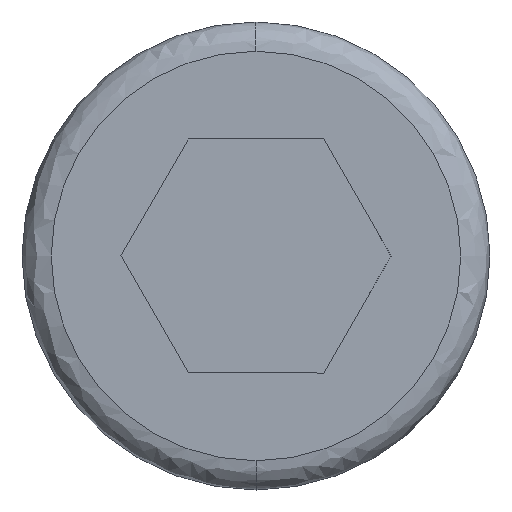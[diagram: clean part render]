
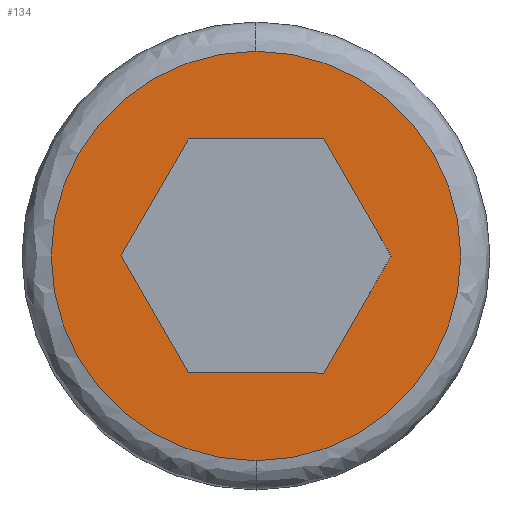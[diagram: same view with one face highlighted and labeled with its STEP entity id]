
A CAD part, left-side view. The second image highlights one B-rep face of the part: STEP entity #134.
In plain terms, the highlighted planar face has unit normal (-1, 0, 0).
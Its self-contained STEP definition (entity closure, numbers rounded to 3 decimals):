
#4 = EDGE_CURVE ( 'NONE', #282, #408, #266, .T. ) ;
#16 = FACE_OUTER_BOUND ( 'NONE', #797, .T. ) ;
#21 = VECTOR ( 'NONE', #187, 1000. ) ;
#25 = VECTOR ( 'NONE', #110, 1000. ) ;
#44 = LINE ( 'NONE', #144, #21 ) ;
#58 = ORIENTED_EDGE ( 'NONE', *, *, #672, .F. ) ;
#64 = ORIENTED_EDGE ( 'NONE', *, *, #248, .T. ) ;
#86 = CARTESIAN_POINT ( 'NONE',  ( -10., 0., 0. ) ) ;
#92 = EDGE_CURVE ( 'NONE', #408, #253, #609, .T. ) ;
#105 = DIRECTION ( 'NONE',  ( 0., -0.5, -0.866 ) ) ;
#110 = DIRECTION ( 'NONE',  ( 0., -0.5, 0.866 ) ) ;
#134 = ADVANCED_FACE ( 'NONE', ( #16, #419 ), #684, .T. ) ;
#144 = CARTESIAN_POINT ( 'NONE',  ( -10., 2.905, 4. ) ) ;
#147 = VECTOR ( 'NONE', #105, 1000. ) ;
#186 = VERTEX_POINT ( 'NONE', #256 ) ;
#187 = DIRECTION ( 'NONE',  ( 0., -1., 0. ) ) ;
#192 = ORIENTED_EDGE ( 'NONE', *, *, #420, .F. ) ;
#210 = ORIENTED_EDGE ( 'NONE', *, *, #92, .T. ) ;
#214 = ORIENTED_EDGE ( 'NONE', *, *, #634, .T. ) ;
#218 = CARTESIAN_POINT ( 'NONE',  ( -10., 0.595, -4. ) ) ;
#234 = EDGE_LOOP ( 'NONE', ( #214, #805, #210, #64, #533, #450 ) ) ;
#245 = VERTEX_POINT ( 'NONE', #339 ) ;
#248 = EDGE_CURVE ( 'NONE', #253, #683, #863, .T. ) ;
#253 = VERTEX_POINT ( 'NONE', #484 ) ;
#256 = CARTESIAN_POINT ( 'NONE',  ( -10., -2.309, 4. ) ) ;
#266 = LINE ( 'NONE', #473, #618 ) ;
#282 = VERTEX_POINT ( 'NONE', #529 ) ;
#339 = CARTESIAN_POINT ( 'NONE',  ( -10., 2.309, 4. ) ) ;
#367 = DIRECTION ( 'NONE',  ( 1., 0., 0. ) ) ;
#399 = LINE ( 'NONE', #780, #25 ) ;
#408 = VERTEX_POINT ( 'NONE', #433 ) ;
#419 = FACE_BOUND ( 'NONE', #234, .T. ) ;
#420 = EDGE_CURVE ( 'NONE', #518, #489, #679, .T. ) ;
#426 = DIRECTION ( 'NONE',  ( -1., 0., 0. ) ) ;
#427 = CIRCLE ( 'NONE', #525, 7. ) ;
#433 = CARTESIAN_POINT ( 'NONE',  ( -10., -2.309, -4. ) ) ;
#450 = ORIENTED_EDGE ( 'NONE', *, *, #657, .T. ) ;
#463 = DIRECTION ( 'NONE',  ( 1., 0., 0. ) ) ;
#464 = DIRECTION ( 'NONE',  ( 0., 0., 1. ) ) ;
#473 = CARTESIAN_POINT ( 'NONE',  ( -10., -3.604, -1.758 ) ) ;
#479 = AXIS2_PLACEMENT_3D ( 'NONE', #753, #426, #464 ) ;
#484 = CARTESIAN_POINT ( 'NONE',  ( -10., 2.309, -4. ) ) ;
#488 = AXIS2_PLACEMENT_3D ( 'NONE', #86, #367, #697 ) ;
#489 = VERTEX_POINT ( 'NONE', #630 ) ;
#493 = DIRECTION ( 'NONE',  ( 0., 1., 0. ) ) ;
#511 = VECTOR ( 'NONE', #493, 1000. ) ;
#518 = VERTEX_POINT ( 'NONE', #763 ) ;
#525 = AXIS2_PLACEMENT_3D ( 'NONE', #587, #463, #578 ) ;
#529 = CARTESIAN_POINT ( 'NONE',  ( -10., -4.619, 0. ) ) ;
#533 = ORIENTED_EDGE ( 'NONE', *, *, #589, .T. ) ;
#541 = DIRECTION ( 'NONE',  ( 0., 0.5, 0.866 ) ) ;
#578 = DIRECTION ( 'NONE',  ( 0., 1., 0. ) ) ;
#579 = VECTOR ( 'NONE', #541, 1000. ) ;
#587 = CARTESIAN_POINT ( 'NONE',  ( -10., 0., 0. ) ) ;
#589 = EDGE_CURVE ( 'NONE', #683, #245, #399, .T. ) ;
#609 = LINE ( 'NONE', #218, #511 ) ;
#618 = VECTOR ( 'NONE', #726, 1000. ) ;
#630 = CARTESIAN_POINT ( 'NONE',  ( -10., 0., 7. ) ) ;
#634 = EDGE_CURVE ( 'NONE', #186, #282, #786, .T. ) ;
#657 = EDGE_CURVE ( 'NONE', #245, #186, #44, .T. ) ;
#672 = EDGE_CURVE ( 'NONE', #489, #518, #427, .T. ) ;
#679 = CIRCLE ( 'NONE', #488, 7. ) ;
#683 = VERTEX_POINT ( 'NONE', #817 ) ;
#684 = PLANE ( 'NONE',  #479 ) ;
#697 = DIRECTION ( 'NONE',  ( 0., 1., 0. ) ) ;
#713 = CARTESIAN_POINT ( 'NONE',  ( -10., -2.449, 3.758 ) ) ;
#726 = DIRECTION ( 'NONE',  ( 0., 0.5, -0.866 ) ) ;
#738 = CARTESIAN_POINT ( 'NONE',  ( -10., 3.324, -2.242 ) ) ;
#753 = CARTESIAN_POINT ( 'NONE',  ( -10., 3.5, 0. ) ) ;
#763 = CARTESIAN_POINT ( 'NONE',  ( -10., 0., -7. ) ) ;
#780 = CARTESIAN_POINT ( 'NONE',  ( -10., 4.479, 0.242 ) ) ;
#786 = LINE ( 'NONE', #713, #147 ) ;
#797 = EDGE_LOOP ( 'NONE', ( #192, #58 ) ) ;
#805 = ORIENTED_EDGE ( 'NONE', *, *, #4, .T. ) ;
#817 = CARTESIAN_POINT ( 'NONE',  ( -10., 4.619, 0. ) ) ;
#863 = LINE ( 'NONE', #738, #579 ) ;
